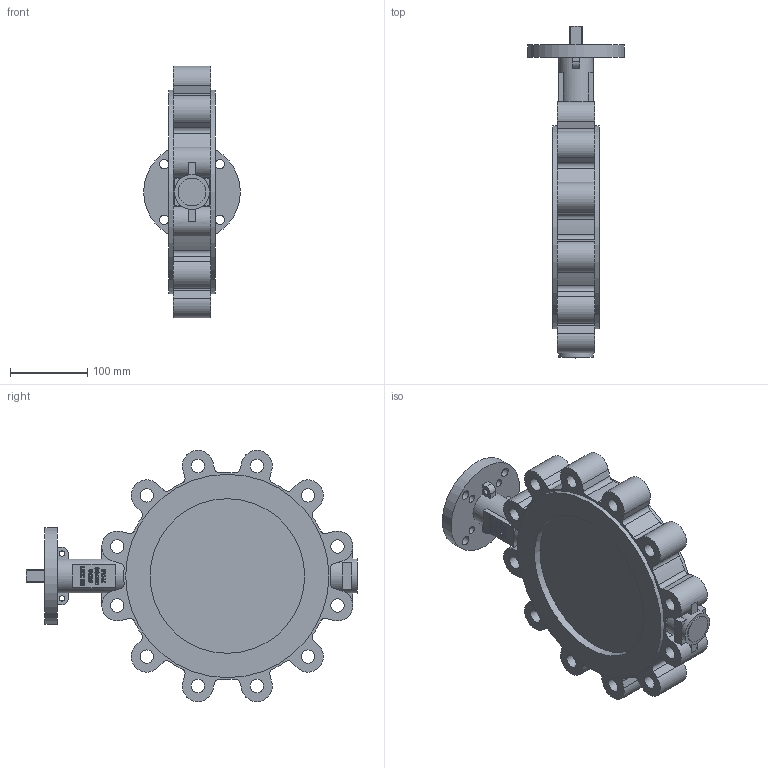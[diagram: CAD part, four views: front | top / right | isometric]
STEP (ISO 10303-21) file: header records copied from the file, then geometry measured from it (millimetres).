
FILE_DESCRIPTION(/* description */ (''),/* implementation_level */ '2;1');
FILE_NAME(/* name */ '6820-DN200-PN16-NBR - 13332790.stp',/* time_stamp */ '2024-09-06T09:15:31+02:00',/* author */ ('roger.thijssen'),/* organization */ (''),/* preprocessor_version */ 'ST-DEVELOPER v20',/* originating_system */ 'Autodesk Inventor 2024',/* authorisation */ '');
FILE_SCHEMA (('AUTOMOTIVE_DESIGN { 1 0 10303 214 3 1 1 }'));
Length unit declared in the file: millimetre
Products named in the file (1): 6820-DN200-PN16
Bounding box: 125 x 429.5 x 324.8 mm (x, y, z)
Volume: 3674895.4 mm3; surface area: 307286.4 mm2
Topology: 1 solids, 1 shells, 523 faces, 1424 edges, 945 vertices
Faces by surface type: plane 266, bspline 135, cylinder 117, cone 5
Full cylindrical faces by diameter (mm): 4.917 x1, 7 x2, 10 x4, 12 x4, 17.294 x12, 36 x1, 45 x2, 125 x1, 200 x2, 263 x2
Entity records: 18472 total; most frequent: CARTESIAN_POINT 5290, ORIENTED_EDGE 2846, DIRECTION 2169, EDGE_CURVE 1423, VERTEX_POINT 945, LINE 855, VECTOR 855, AXIS2_PLACEMENT_3D 657
